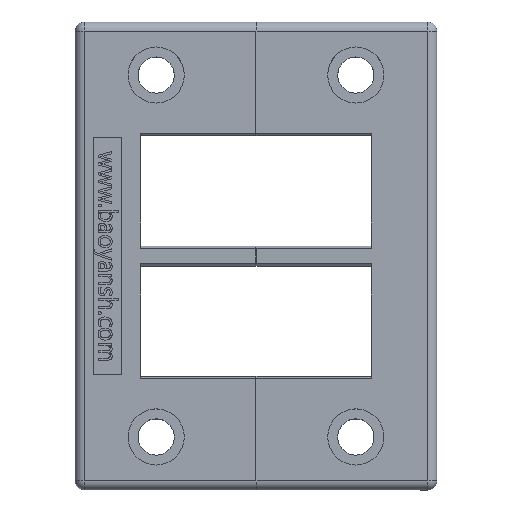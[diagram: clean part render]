
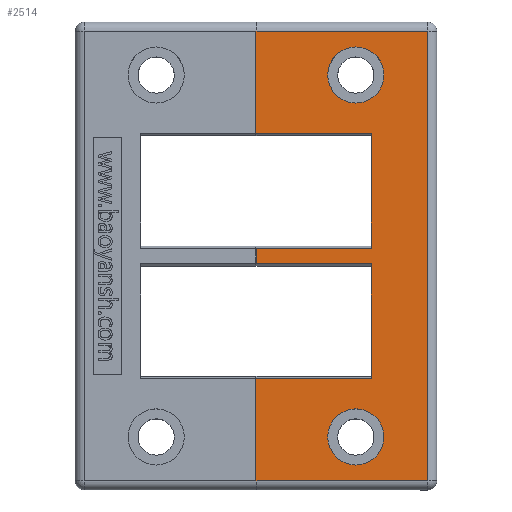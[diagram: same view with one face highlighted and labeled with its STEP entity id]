
A CAD part, top view. The second image highlights one B-rep face of the part: STEP entity #2514.
In plain terms, the highlighted planar face has unit normal (0, 0, 1).
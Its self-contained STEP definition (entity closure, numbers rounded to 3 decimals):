
#2514=ADVANCED_FACE('',(#4229,#4230,#4231),#3453,.T.);
#3453=PLANE('',#18315);
#4000=CIRCLE('',#18313,4.5);
#4001=CIRCLE('',#18314,4.5);
#4229=FACE_BOUND('',#4373,.T.);
#4230=FACE_BOUND('',#4374,.T.);
#4231=FACE_BOUND('',#4375,.T.);
#4373=EDGE_LOOP('',(#5407,#5408,#5409,#5410,#5411,#5412,#5413,#5414,#5415,
#5416,#5417,#5418,#5419));
#4374=EDGE_LOOP('',(#5420));
#4375=EDGE_LOOP('',(#5421));
#5407=ORIENTED_EDGE('',*,*,#12471,.T.);
#5408=ORIENTED_EDGE('',*,*,#12472,.T.);
#5409=ORIENTED_EDGE('',*,*,#12473,.T.);
#5410=ORIENTED_EDGE('',*,*,#12474,.F.);
#5411=ORIENTED_EDGE('',*,*,#12475,.T.);
#5412=ORIENTED_EDGE('',*,*,#12476,.F.);
#5413=ORIENTED_EDGE('',*,*,#12477,.T.);
#5414=ORIENTED_EDGE('',*,*,#12478,.T.);
#5415=ORIENTED_EDGE('',*,*,#12479,.T.);
#5416=ORIENTED_EDGE('',*,*,#12480,.F.);
#5417=ORIENTED_EDGE('',*,*,#12481,.T.);
#5418=ORIENTED_EDGE('',*,*,#12482,.T.);
#5419=ORIENTED_EDGE('',*,*,#12483,.T.);
#5420=ORIENTED_EDGE('',*,*,#12484,.T.);
#5421=ORIENTED_EDGE('',*,*,#12485,.T.);
#10687=VERTEX_POINT('',#23128);
#10688=VERTEX_POINT('',#23129);
#10689=VERTEX_POINT('',#23131);
#10690=VERTEX_POINT('',#23133);
#10691=VERTEX_POINT('',#23135);
#10692=VERTEX_POINT('',#23137);
#10693=VERTEX_POINT('',#23139);
#10694=VERTEX_POINT('',#23141);
#10695=VERTEX_POINT('',#23143);
#10696=VERTEX_POINT('',#23145);
#10697=VERTEX_POINT('',#23147);
#10698=VERTEX_POINT('',#23149);
#10699=VERTEX_POINT('',#23151);
#10700=VERTEX_POINT('',#23154);
#10701=VERTEX_POINT('',#23156);
#12471=EDGE_CURVE('',#10687,#10688,#15111,.T.);
#12472=EDGE_CURVE('',#10688,#10689,#15112,.T.);
#12473=EDGE_CURVE('',#10689,#10690,#15113,.T.);
#12474=EDGE_CURVE('',#10691,#10690,#15114,.T.);
#12475=EDGE_CURVE('',#10691,#10692,#15115,.T.);
#12476=EDGE_CURVE('',#10693,#10692,#15116,.T.);
#12477=EDGE_CURVE('',#10693,#10694,#15117,.T.);
#12478=EDGE_CURVE('',#10694,#10695,#15118,.T.);
#12479=EDGE_CURVE('',#10695,#10696,#15119,.T.);
#12480=EDGE_CURVE('',#10697,#10696,#15120,.T.);
#12481=EDGE_CURVE('',#10697,#10698,#15121,.T.);
#12482=EDGE_CURVE('',#10698,#10699,#15122,.T.);
#12483=EDGE_CURVE('',#10699,#10687,#15123,.T.);
#12484=EDGE_CURVE('',#10700,#10700,#4000,.T.);
#12485=EDGE_CURVE('',#10701,#10701,#4001,.T.);
#15111=LINE('',#23127,#16606);
#15112=LINE('',#23130,#16607);
#15113=LINE('',#23132,#16608);
#15114=LINE('',#23134,#16609);
#15115=LINE('',#23136,#16610);
#15116=LINE('',#23138,#16611);
#15117=LINE('',#23140,#16612);
#15118=LINE('',#23142,#16613);
#15119=LINE('',#23144,#16614);
#15120=LINE('',#23146,#16615);
#15121=LINE('',#23148,#16616);
#15122=LINE('',#23150,#16617);
#15123=LINE('',#23152,#16618);
#16606=VECTOR('',#19350,1.);
#16607=VECTOR('',#19351,1.);
#16608=VECTOR('',#19352,1.);
#16609=VECTOR('',#19353,1.);
#16610=VECTOR('',#19354,1.);
#16611=VECTOR('',#19355,1.);
#16612=VECTOR('',#19356,1.);
#16613=VECTOR('',#19357,1.);
#16614=VECTOR('',#19358,1.);
#16615=VECTOR('',#19359,1.);
#16616=VECTOR('',#19360,1.);
#16617=VECTOR('',#19361,1.);
#16618=VECTOR('',#19362,1.);
#18313=AXIS2_PLACEMENT_3D('',#23153,#19363,#19364);
#18314=AXIS2_PLACEMENT_3D('',#23155,#19365,#19366);
#18315=AXIS2_PLACEMENT_3D('',#23157,#19367,#19368);
#19350=DIRECTION('',(0.,-1.,0.));
#19351=DIRECTION('',(0.,-1.,0.));
#19352=DIRECTION('',(1.,0.,0.));
#19353=DIRECTION('',(0.,1.,0.));
#19354=DIRECTION('',(-1.,0.,0.));
#19355=DIRECTION('',(0.,1.,0.));
#19356=DIRECTION('',(1.,0.,0.));
#19357=DIRECTION('',(0.,1.,0.));
#19358=DIRECTION('',(-1.,0.,0.));
#19359=DIRECTION('',(0.,1.,0.));
#19360=DIRECTION('',(1.,0.,0.));
#19361=DIRECTION('',(0.,-1.,0.));
#19362=DIRECTION('',(-1.,0.,0.));
#19363=DIRECTION('',(0.,0.,-1.));
#19364=DIRECTION('',(1.,0.,0.));
#19365=DIRECTION('',(0.,0.,-1.));
#19366=DIRECTION('',(1.,0.,0.));
#19367=DIRECTION('',(0.,0.,1.));
#19368=DIRECTION('',(0.,1.,0.));
#23127=CARTESIAN_POINT('',(-43.992,135.831,1.526));
#23128=CARTESIAN_POINT('',(-43.992,136.456,1.526));
#23129=CARTESIAN_POINT('',(-43.992,135.206,1.526));
#23130=CARTESIAN_POINT('',(-43.992,134.581,1.526));
#23131=CARTESIAN_POINT('',(-43.992,133.956,1.526));
#23132=CARTESIAN_POINT('',(-44.542,133.956,1.526));
#23133=CARTESIAN_POINT('',(-25.492,133.956,1.526));
#23134=CARTESIAN_POINT('',(-25.492,24.326,1.526));
#23135=CARTESIAN_POINT('',(-25.492,115.556,1.526));
#23136=CARTESIAN_POINT('',(-55.223,115.556,1.526));
#23137=CARTESIAN_POINT('',(-43.992,115.556,1.526));
#23138=CARTESIAN_POINT('',(-43.992,61.56,1.526));
#23139=CARTESIAN_POINT('',(-43.992,99.207,1.526));
#23140=CARTESIAN_POINT('',(-30.242,99.207,1.526));
#23141=CARTESIAN_POINT('',(-16.492,99.207,1.526));
#23142=CARTESIAN_POINT('',(-16.492,246.086,1.526));
#23143=CARTESIAN_POINT('',(-16.492,171.206,1.526));
#23144=CARTESIAN_POINT('',(-30.242,171.206,1.526));
#23145=CARTESIAN_POINT('',(-43.992,171.206,1.526));
#23146=CARTESIAN_POINT('',(-43.992,208.853,1.526));
#23147=CARTESIAN_POINT('',(-43.992,154.856,1.526));
#23148=CARTESIAN_POINT('',(-55.223,154.856,1.526));
#23149=CARTESIAN_POINT('',(-25.492,154.856,1.526));
#23150=CARTESIAN_POINT('',(-25.492,246.086,1.526));
#23151=CARTESIAN_POINT('',(-25.492,136.456,1.526));
#23152=CARTESIAN_POINT('',(-44.542,136.456,1.526));
#23153=CARTESIAN_POINT('',(-27.992,164.206,1.526));
#23154=CARTESIAN_POINT('',(-27.992,168.706,1.526));
#23155=CARTESIAN_POINT('',(-27.992,106.206,1.526));
#23156=CARTESIAN_POINT('',(-27.992,101.706,1.526));
#23157=CARTESIAN_POINT('',(-44.542,246.086,1.526));
